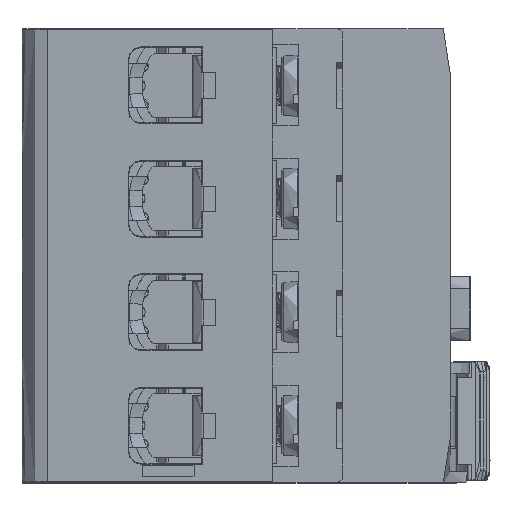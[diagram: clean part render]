
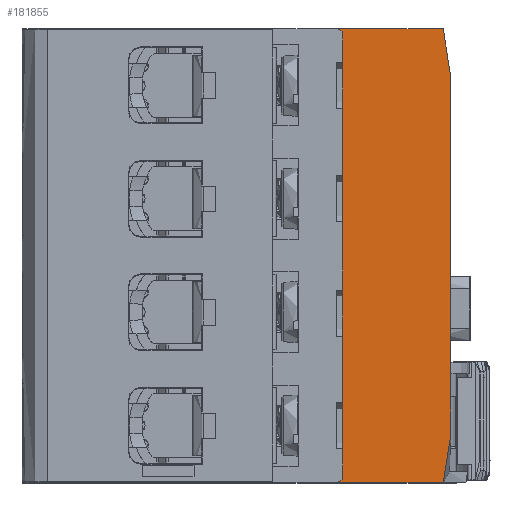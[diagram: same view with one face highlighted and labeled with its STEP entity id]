
A CAD part, top view. The second image highlights one B-rep face of the part: STEP entity #181855.
In plain terms, the highlighted planar face has unit normal (0, 0, 1) as drawn and (0, 1, 0) by its records, which use the part's own axes.
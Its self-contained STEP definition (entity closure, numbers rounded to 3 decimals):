
#2676 = PLANE ( 'NONE',  #159360 ) ;
#11745 = ORIENTED_EDGE ( 'NONE', *, *, #102505, .T. ) ;
#12694 = VERTEX_POINT ( 'NONE', #120990 ) ;
#13336 = B_SPLINE_CURVE_WITH_KNOTS ( 'NONE', 5,
 ( #300144, #232065, #252300, #208816, #60424, #160905 ),
 .UNSPECIFIED., .F., .F.,
 ( 6, 6 ),
 ( 0.112, 7.874 ),
 .UNSPECIFIED. ) ;
#15234 = DIRECTION ( 'NONE',  ( 1., 0., 0. ) ) ;
#17695 = LINE ( 'NONE', #65738, #37745 ) ;
#19844 = VERTEX_POINT ( 'NONE', #165621 ) ;
#21676 = ORIENTED_EDGE ( 'NONE', *, *, #290674, .F. ) ;
#26357 = CARTESIAN_POINT ( 'NONE',  ( 69., 63.25, 0. ) ) ;
#26421 = CARTESIAN_POINT ( 'NONE',  ( 124.5, 63.25, 16.872 ) ) ;
#37745 = VECTOR ( 'NONE', #139972, 1000. ) ;
#56686 = CARTESIAN_POINT ( 'NONE',  ( 70., 63.25, 15.673 ) ) ;
#60050 = ORIENTED_EDGE ( 'NONE', *, *, #288559, .F. ) ;
#60424 = CARTESIAN_POINT ( 'NONE',  ( 4.841, 63.25, 16.871 ) ) ;
#62399 = VERTEX_POINT ( 'NONE', #184643 ) ;
#64830 = LINE ( 'NONE', #252091, #142232 ) ;
#65738 = CARTESIAN_POINT ( 'NONE',  ( 70., 63.25, 0. ) ) ;
#73705 = CARTESIAN_POINT ( 'NONE',  ( 0., 63.25, 0. ) ) ;
#75927 = LINE ( 'NONE', #26421, #84367 ) ;
#81674 = AXIS2_PLACEMENT_3D ( 'NONE', #193675, #125551, #122550 ) ;
#84367 = VECTOR ( 'NONE', #170263, 1000. ) ;
#88950 = EDGE_CURVE ( 'NONE', #232194, #12694, #240854, .T. ) ;
#91490 = AXIS2_PLACEMENT_3D ( 'NONE', #107820, #268820, #293514 ) ;
#95870 = ORIENTED_EDGE ( 'NONE', *, *, #268297, .T. ) ;
#99821 = VERTEX_POINT ( 'NONE', #305277 ) ;
#100317 = EDGE_CURVE ( 'NONE', #144604, #232194, #150774, .T. ) ;
#101603 = CARTESIAN_POINT ( 'NONE',  ( 55.5, 63.25, 0. ) ) ;
#102505 = EDGE_CURVE ( 'NONE', #12694, #19844, #13336, .T. ) ;
#107820 = CARTESIAN_POINT ( 'NONE',  ( 69., 63.25, -1. ) ) ;
#120825 = CARTESIAN_POINT ( 'NONE',  ( -1., 63.25, -1. ) ) ;
#120990 = CARTESIAN_POINT ( 'NONE',  ( -1., 63.25, 15.673 ) ) ;
#121829 = DIRECTION ( 'NONE',  ( 0., -1., 0. ) ) ;
#122550 = DIRECTION ( 'NONE',  ( 1., 0., 0. ) ) ;
#123302 = CARTESIAN_POINT ( 'NONE',  ( 69.918, 63.25, 16.21 ) ) ;
#125551 = DIRECTION ( 'NONE',  ( 0., -1., 0. ) ) ;
#139972 = DIRECTION ( 'NONE',  ( 0., 0., 1. ) ) ;
#142232 = VECTOR ( 'NONE', #15234, 1000. ) ;
#144604 = VERTEX_POINT ( 'NONE', #73705 ) ;
#146545 = CARTESIAN_POINT ( 'NONE',  ( 69.837, 63.25, 16.747 ) ) ;
#148594 = EDGE_CURVE ( 'NONE', #99821, #62399, #237635, .T. ) ;
#150774 = CIRCLE ( 'NONE', #81674, 1. ) ;
#159360 = AXIS2_PLACEMENT_3D ( 'NONE', #101603, #121829, #216177 ) ;
#160905 = CARTESIAN_POINT ( 'NONE',  ( 6.617, 63.25, 16.872 ) ) ;
#165621 = CARTESIAN_POINT ( 'NONE',  ( 6.617, 63.25, 16.872 ) ) ;
#170263 = DIRECTION ( 'NONE',  ( 1., 0., 0. ) ) ;
#170798 = EDGE_CURVE ( 'NONE', #290532, #181832, #185352, .T. ) ;
#181832 = VERTEX_POINT ( 'NONE', #281330 ) ;
#181855 = ADVANCED_FACE ( 'NONE', ( #244000 ), #2676, .F. ) ;
#184643 = CARTESIAN_POINT ( 'NONE',  ( 62.383, 63.25, 16.872 ) ) ;
#185352 = CIRCLE ( 'NONE', #91490, 1. ) ;
#193675 = CARTESIAN_POINT ( 'NONE',  ( 0., 63.25, -1. ) ) ;
#208816 = CARTESIAN_POINT ( 'NONE',  ( 2.489, 63.25, 16.855 ) ) ;
#213010 = CARTESIAN_POINT ( 'NONE',  ( -1., 63.25, -11.48 ) ) ;
#215598 = EDGE_LOOP ( 'NONE', ( #60050, #292784, #21676, #257751, #252912, #11745, #95870, #224204 ) ) ;
#216177 = DIRECTION ( 'NONE',  ( 1., 0., 0. ) ) ;
#217686 = CARTESIAN_POINT ( 'NONE',  ( 62.383, 63.25, 16.872 ) ) ;
#224204 = ORIENTED_EDGE ( 'NONE', *, *, #148594, .F. ) ;
#232065 = CARTESIAN_POINT ( 'NONE',  ( -0.918, 63.25, 16.21 ) ) ;
#232194 = VERTEX_POINT ( 'NONE', #120825 ) ;
#237635 = B_SPLINE_CURVE_WITH_KNOTS ( 'NONE', 5,
 ( #56686, #123302, #146545, #240961, #239445, #217686 ),
 .UNSPECIFIED., .F., .F.,
 ( 6, 6 ),
 ( 0.112, 7.874 ),
 .UNSPECIFIED. ) ;
#239445 = CARTESIAN_POINT ( 'NONE',  ( 64.159, 63.25, 16.871 ) ) ;
#240854 = LINE ( 'NONE', #213010, #273357 ) ;
#240961 = CARTESIAN_POINT ( 'NONE',  ( 66.511, 63.25, 16.855 ) ) ;
#244000 = FACE_OUTER_BOUND ( 'NONE', #215598, .T. ) ;
#252091 = CARTESIAN_POINT ( 'NONE',  ( 55.5, 63.25, 0. ) ) ;
#252300 = CARTESIAN_POINT ( 'NONE',  ( -0.837, 63.25, 16.747 ) ) ;
#252912 = ORIENTED_EDGE ( 'NONE', *, *, #88950, .T. ) ;
#257751 = ORIENTED_EDGE ( 'NONE', *, *, #100317, .T. ) ;
#268297 = EDGE_CURVE ( 'NONE', #19844, #62399, #75927, .T. ) ;
#268820 = DIRECTION ( 'NONE',  ( 0., 1., 0. ) ) ;
#273357 = VECTOR ( 'NONE', #288753, 1000. ) ;
#281330 = CARTESIAN_POINT ( 'NONE',  ( 70., 63.25, -1. ) ) ;
#288559 = EDGE_CURVE ( 'NONE', #181832, #99821, #17695, .T. ) ;
#288753 = DIRECTION ( 'NONE',  ( 0., 0., 1. ) ) ;
#290532 = VERTEX_POINT ( 'NONE', #26357 ) ;
#290674 = EDGE_CURVE ( 'NONE', #144604, #290532, #64830, .T. ) ;
#292784 = ORIENTED_EDGE ( 'NONE', *, *, #170798, .F. ) ;
#293514 = DIRECTION ( 'NONE',  ( -1., 0., 0. ) ) ;
#300144 = CARTESIAN_POINT ( 'NONE',  ( -1., 63.25, 15.673 ) ) ;
#305277 = CARTESIAN_POINT ( 'NONE',  ( 70., 63.25, 15.673 ) ) ;
